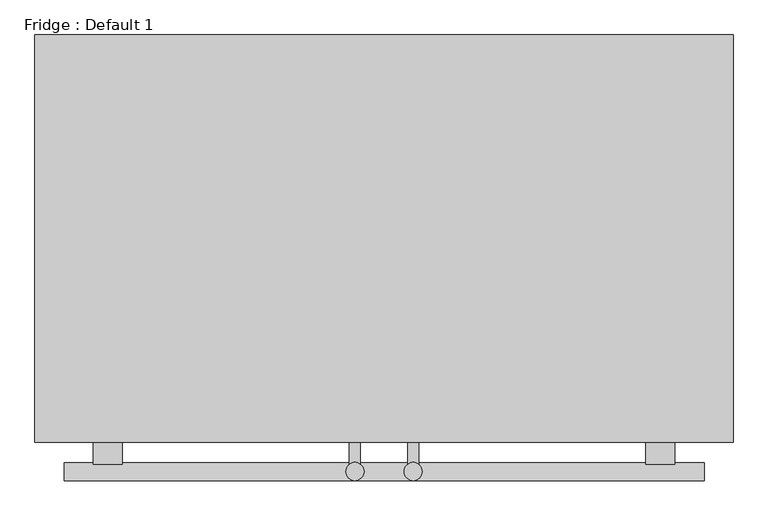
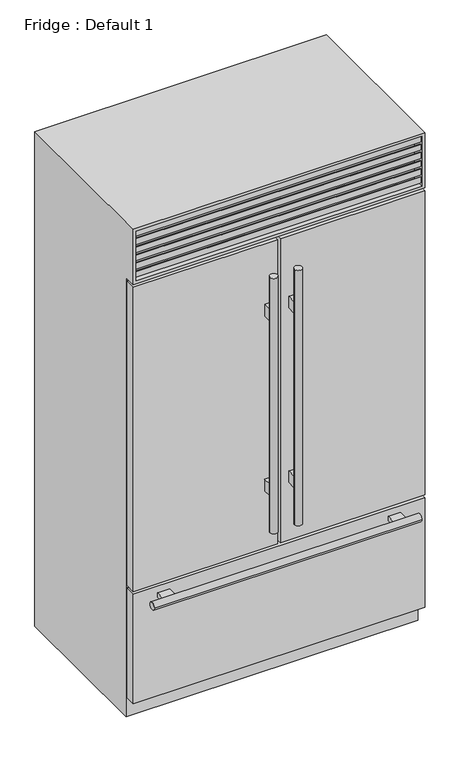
"""IFC4 building model written with IfcOpenShell, lengths in millimetres: proxy geometry, Fridge : Default 1."""

from ifc_helpers import new_model, si_unit, frame, origin, place, context, project, spatial, polyline, circle_curve, ellipse_curve, outline, extrude, faceted_brep, source, transform, mapped, element, save
from ifc_brep_helpers import plane_surface, cylinder_surface, advanced_brep


def fridge_default_1_30e53153(model_context):
    return source(origin(), model_context, "Body", "SolidModel", [
        extrude(outline(polyline([(-609.6, -766.75), (-6.35, -766.75), (-6.35, -811.2), (-609.6, -811.2), (-609.6, -766.75)])), frame((0.0, 0.0, 584.2), z_axis=(0.0, 0.0, 1.0), x_axis=(1.0, 0.0, 0.0)), (0.0, 0.0, 1.0), 1343.025),
        extrude(outline(polyline([(6.35, -766.75), (609.6, -766.75), (609.6, -811.2), (6.35, -811.2), (6.35, -766.75)])), frame((0.0, 0.0, 584.2), z_axis=(0.0, 0.0, 1.0), x_axis=(1.0, 0.0, 0.0)), (0.0, 0.0, 1.0), 1343.025),
        extrude(outline(polyline([(-609.6, -766.75), (609.6, -766.75), (609.6, -811.2), (-609.6, -811.2), (-609.6, -766.75)])), frame((0.0, 0.0, 88.9), z_axis=(0.0, 0.0, 1.0), x_axis=(1.0, 0.0, 0.0)), (0.0, 0.0, 1.0), 482.6),
        faceted_brep([(609.6, -811.2, 2184.4), (-609.6, -811.2, 2184.4), (-609.6, -811.2, 1939.925), (609.6, -811.2, 1939.925), (596.9, -811.2, 2171.7), (596.9, -811.2, 1952.625), (-596.9, -811.2, 1952.625), (-596.9, -811.2, 2171.7), (609.6, -100.0, 2184.4), (-609.6, -100.0, 2184.4), (-609.6, -100.0, 0.0), (-609.6, -760.4, 0.0), (-609.6, -760.4, 1939.925), (609.6, -760.4, 1939.925), (609.6, -760.4, 0.0), (609.6, -100.0, 0.0), (-596.9, -760.4, 2171.7), (596.9, -760.4, 2171.7), (-596.9, -760.4, 1952.625), (596.9, -760.4, 1952.625)], [[[0, 1, 2, 3], [4, 5, 6, 7]], [[1, 0, 8, 9]], [[2, 1, 9, 10, 11, 12]], [[3, 2, 12, 13]], [[8, 0, 3, 13, 14, 15]], [[4, 7, 16, 17]], [[7, 6, 18, 16]], [[6, 5, 19, 18]], [[5, 4, 17, 19]], [[15, 14, 11, 10]], [[9, 8, 15, 10]], [[17, 16, 18, 19]], [[11, 14, 13, 12]]]),
        extrude(outline(polyline([(-760.4, 1952.625), (-808.025, 1965.3860803), (-808.025, 1990.7860803), (-804.85, 1990.7860803), (-804.85, 1967.9368938), (-760.4, 1956.0265522), (-760.4, 1952.625)])), frame((-596.9, 0.0, 0.0), z_axis=(1.0, 0.0, 0.0), x_axis=(0.0, 1.0, 0.0)), (0.0, 0.0, 1.0), 1193.8),
        extrude(outline(polyline([(-760.4, 1988.8077839), (-808.025, 2001.5688642), (-808.025, 2026.9688642), (-804.85, 2026.9688642), (-804.85, 2004.1196777), (-760.4, 1992.2093361), (-760.4, 1988.8077839)])), frame((-596.9, 0.0, 0.0), z_axis=(1.0, 0.0, 0.0), x_axis=(0.0, 1.0, 0.0)), (0.0, 0.0, 1.0), 1193.8),
        extrude(outline(polyline([(-760.4, 2024.9905679), (-808.025, 2037.7516482), (-808.025, 2063.1516482), (-804.85, 2063.1516482), (-804.85, 2040.3024616), (-760.4, 2028.39212), (-760.4, 2024.9905679)])), frame((-596.9, 0.0, 0.0), z_axis=(1.0, 0.0, 0.0), x_axis=(0.0, 1.0, 0.0)), (0.0, 0.0, 1.0), 1193.8),
        extrude(outline(polyline([(-760.4, 2061.1733518), (-808.025, 2073.9344321), (-808.025, 2099.3344321), (-804.85, 2099.3344321), (-804.85, 2076.4852456), (-760.4, 2064.574904), (-760.4, 2061.1733518)])), frame((-596.9, 0.0, 0.0), z_axis=(1.0, 0.0, 0.0), x_axis=(0.0, 1.0, 0.0)), (0.0, 0.0, 1.0), 1193.8),
        extrude(outline(polyline([(-760.4, 2097.3561358), (-808.025, 2110.1172161), (-808.025, 2135.5172161), (-804.85, 2135.5172161), (-804.85, 2112.6680295), (-760.4, 2100.7576879), (-760.4, 2097.3561358)])), frame((-596.9, 0.0, 0.0), z_axis=(1.0, 0.0, 0.0), x_axis=(0.0, 1.0, 0.0)), (0.0, 0.0, 1.0), 1193.8),
        extrude(outline(polyline([(-760.4, 2133.5389197), (-808.025, 2146.3), (-808.025, 2171.7), (-804.85, 2171.7), (-804.85, 2148.8508135), (-760.4, 2136.9404719), (-760.4, 2133.5389197)])), frame((-596.9, 0.0, 0.0), z_axis=(1.0, 0.0, 0.0), x_axis=(0.0, 1.0, 0.0)), (0.0, 0.0, 1.0), 1193.8),
        advanced_brep(
        [(-603.25, -760.4, 565.15), (-603.25, -766.75, 565.15), (-603.25, -766.75, 95.25), (-603.25, -760.4, 95.25), (-606.425, -766.75, 568.325), (-606.425, -760.4, 568.325), (-606.425, -760.4, 92.075), (-606.425, -766.75, 92.075), (603.25, -766.75, 95.25), (603.25, -760.4, 95.25), (606.425, -760.4, 92.075), (606.425, -766.75, 92.075), (603.25, -766.75, 565.15), (603.25, -760.4, 565.15), (606.425, -760.4, 568.325), (606.425, -766.75, 568.325)],
        [
            (0, 1),
            (1, 2),
            (2, 3),
            (3, 0),
            (4, 5, ellipse_curve(frame((-606.425, -763.575, 568.325), z_axis=(-0.7071067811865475, 0.0, -0.7071067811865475), x_axis=(-0.7071067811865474, 0.0, 0.7071067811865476)), 4.4901281, 3.175)),
            (5, 6),
            (6, 7, ellipse_curve(frame((-606.425, -763.575, 92.075), z_axis=(-0.7071067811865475, 0.0, 0.7071067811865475), x_axis=(0.7071067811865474, 0.0, 0.7071067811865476)), 4.4901281, 3.175)),
            (7, 4),
            (2, 8),
            (8, 9),
            (9, 3),
            (6, 10),
            (10, 11, ellipse_curve(frame((606.425, -763.575, 92.075), z_axis=(-0.7071067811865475, 0.0, -0.7071067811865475), x_axis=(-0.7071067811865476, 0.0, 0.7071067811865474)), 4.4901281, 3.175)),
            (11, 7),
            (8, 12),
            (12, 13),
            (13, 9),
            (10, 14),
            (14, 15, ellipse_curve(frame((606.425, -763.575, 568.325), z_axis=(0.7071067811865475, 0.0, -0.7071067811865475), x_axis=(-0.7071067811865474, 0.0, -0.7071067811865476)), 4.4901281, 3.175)),
            (15, 11),
            (12, 1),
            (0, 13),
            (5, 14),
            (4, 15),
        ],
        [
            plane_surface(frame((-603.25, -766.75, 565.15), z_axis=(1.0, 0.0, 0.0), x_axis=(0.0, 0.0, -1.0))),
            cylinder_surface(frame((-606.425, -763.575, 571.5), z_axis=(0.0, 0.0, 1.0), x_axis=(0.0, -1.0, 0.0)), 3.175),
            plane_surface(frame((-603.25, -766.75, 95.25), z_axis=(0.0, 0.0, 1.0), x_axis=(1.0, 0.0, 0.0))),
            cylinder_surface(frame((-609.6, -763.575, 92.075), z_axis=(-1.0, 0.0, 0.0), x_axis=(0.0, -1.0, 0.0)), 3.175),
            plane_surface(frame((603.25, -766.75, 95.25), z_axis=(-1.0, 0.0, 0.0), x_axis=(0.0, 0.0, 1.0))),
            cylinder_surface(frame((606.425, -763.575, 88.9), z_axis=(0.0, 0.0, -1.0), x_axis=(0.0, -1.0, 0.0)), 3.175),
            plane_surface(frame((603.25, -766.75, 565.15), z_axis=(0.0, 0.0, -1.0), x_axis=(-1.0, 0.0, 0.0))),
            plane_surface(frame((603.25, -760.4, 565.15), z_axis=(0.0, 1.0, 0.0), x_axis=(-1.0, 0.0, 0.0))),
            cylinder_surface(frame((609.6, -763.575, 568.325), z_axis=(1.0, 0.0, 0.0), x_axis=(0.0, -1.0, 0.0)), 3.175),
            plane_surface(frame((606.425, -766.75, 568.325), z_axis=(0.0, -1.0, 0.0), x_axis=(-1.0, 0.0, 0.0))),
        ],
        [
            (0, [[1, 2, 3, 4]]),
            (1, [[5, 6, 7, 8]]),
            (2, [[-3, 9, 10, 11]]),
            (3, [[-7, 12, 13, 14]]),
            (4, [[-10, 15, 16, 17]]),
            (5, [[-13, 18, 19, 20]]),
            (6, [[-16, 21, -1, 22]]),
            (7, [[23, -18, -12, -6], [-11, -17, -22, -4]]),
            (8, [[-19, -23, -5, 24]]),
            (9, [[-14, -20, -24, -8], [-21, -15, -9, -2]]),
        ],
    ),
        advanced_brep(
        [(12.7, -760.4, 1920.875), (12.7, -766.75, 1920.875), (12.7, -766.75, 590.55), (12.7, -760.4, 590.55), (9.525, -766.75, 1924.05), (9.525, -760.4, 1924.05), (9.525, -760.4, 587.375), (9.525, -766.75, 587.375), (603.25, -766.75, 590.55), (603.25, -760.4, 590.55), (606.425, -760.4, 587.375), (606.425, -766.75, 587.375), (603.25, -766.75, 1920.875), (603.25, -760.4, 1920.875), (606.425, -760.4, 1924.05), (606.425, -766.75, 1924.05)],
        [
            (0, 1),
            (1, 2),
            (2, 3),
            (3, 0),
            (4, 5, ellipse_curve(frame((9.525, -763.575, 1924.05), z_axis=(-0.7071067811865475, 0.0, -0.7071067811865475), x_axis=(-0.7071067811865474, 0.0, 0.7071067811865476)), 4.4901281, 3.175)),
            (5, 6),
            (6, 7, ellipse_curve(frame((9.525, -763.575, 587.375), z_axis=(-0.7071067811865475, 0.0, 0.7071067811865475), x_axis=(0.7071067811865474, 0.0, 0.7071067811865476)), 4.4901281, 3.175)),
            (7, 4),
            (2, 8),
            (8, 9),
            (9, 3),
            (6, 10),
            (10, 11, ellipse_curve(frame((606.425, -763.575, 587.375), z_axis=(-0.7071067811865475, 0.0, -0.7071067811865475), x_axis=(-0.7071067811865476, 0.0, 0.7071067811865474)), 4.4901281, 3.175)),
            (11, 7),
            (8, 12),
            (12, 13),
            (13, 9),
            (10, 14),
            (14, 15, ellipse_curve(frame((606.425, -763.575, 1924.05), z_axis=(0.7071067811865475, 0.0, -0.7071067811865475), x_axis=(-0.7071067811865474, 0.0, -0.7071067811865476)), 4.4901281, 3.175)),
            (15, 11),
            (12, 1),
            (0, 13),
            (5, 14),
            (4, 15),
        ],
        [
            plane_surface(frame((12.7, -766.75, 1920.875), z_axis=(1.0, 0.0, 0.0), x_axis=(0.0, 0.0, -1.0))),
            cylinder_surface(frame((9.525, -763.575, 1927.225), z_axis=(0.0, 0.0, 1.0), x_axis=(0.0, -1.0, 0.0)), 3.175),
            plane_surface(frame((12.7, -766.75, 590.55), z_axis=(0.0, 0.0, 1.0), x_axis=(1.0, 0.0, 0.0))),
            cylinder_surface(frame((6.35, -763.575, 587.375), z_axis=(-1.0, 0.0, 0.0), x_axis=(0.0, -1.0, 0.0)), 3.175),
            plane_surface(frame((603.25, -766.75, 590.55), z_axis=(-1.0, 0.0, 0.0), x_axis=(0.0, 0.0, 1.0))),
            cylinder_surface(frame((606.425, -763.575, 584.2), z_axis=(0.0, 0.0, -1.0), x_axis=(0.0, -1.0, 0.0)), 3.175),
            plane_surface(frame((603.25, -766.75, 1920.875), z_axis=(0.0, 0.0, -1.0), x_axis=(-1.0, 0.0, 0.0))),
            plane_surface(frame((603.25, -760.4, 1920.875), z_axis=(0.0, 1.0, 0.0), x_axis=(-1.0, 0.0, 0.0))),
            cylinder_surface(frame((609.6, -763.575, 1924.05), z_axis=(1.0, 0.0, 0.0), x_axis=(0.0, -1.0, 0.0)), 3.175),
            plane_surface(frame((606.425, -766.75, 1924.05), z_axis=(0.0, -1.0, 0.0), x_axis=(-1.0, 0.0, 0.0))),
        ],
        [
            (0, [[1, 2, 3, 4]]),
            (1, [[5, 6, 7, 8]]),
            (2, [[-3, 9, 10, 11]]),
            (3, [[-7, 12, 13, 14]]),
            (4, [[-10, 15, 16, 17]]),
            (5, [[-13, 18, 19, 20]]),
            (6, [[-16, 21, -1, 22]]),
            (7, [[23, -18, -12, -6], [-11, -17, -22, -4]]),
            (8, [[-19, -23, -5, 24]]),
            (9, [[-14, -20, -24, -8], [-21, -15, -9, -2]]),
        ],
    ),
        advanced_brep(
        [(-603.25, -760.4, 1920.875), (-603.25, -766.75, 1920.875), (-603.25, -766.75, 590.55), (-603.25, -760.4, 590.55), (-606.425, -766.75, 1924.05), (-606.425, -760.4, 1924.05), (-606.425, -760.4, 587.375), (-606.425, -766.75, 587.375), (-12.7, -766.75, 590.55), (-12.7, -760.4, 590.55), (-9.525, -760.4, 587.375), (-9.525, -766.75, 587.375), (-12.7, -766.75, 1920.875), (-12.7, -760.4, 1920.875), (-9.525, -760.4, 1924.05), (-9.525, -766.75, 1924.05)],
        [
            (0, 1),
            (1, 2),
            (2, 3),
            (3, 0),
            (4, 5, ellipse_curve(frame((-606.425, -763.575, 1924.05), z_axis=(-0.7071067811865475, 0.0, -0.7071067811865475), x_axis=(-0.7071067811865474, 0.0, 0.7071067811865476)), 4.4901281, 3.175)),
            (5, 6),
            (6, 7, ellipse_curve(frame((-606.425, -763.575, 587.375), z_axis=(-0.7071067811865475, 0.0, 0.7071067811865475), x_axis=(0.7071067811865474, 0.0, 0.7071067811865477)), 4.4901281, 3.175)),
            (7, 4),
            (2, 8),
            (8, 9),
            (9, 3),
            (6, 10),
            (10, 11, ellipse_curve(frame((-9.525, -763.575, 587.375), z_axis=(-0.7071067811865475, 0.0, -0.7071067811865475), x_axis=(-0.7071067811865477, 0.0, 0.7071067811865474)), 4.4901281, 3.175)),
            (11, 7),
            (8, 12),
            (12, 13),
            (13, 9),
            (10, 14),
            (14, 15, ellipse_curve(frame((-9.525, -763.575, 1924.05), z_axis=(0.7071067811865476, 0.0, -0.7071067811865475), x_axis=(-0.7071067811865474, 0.0, -0.7071067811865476)), 4.4901281, 3.175)),
            (15, 11),
            (12, 1),
            (0, 13),
            (5, 14),
            (4, 15),
        ],
        [
            plane_surface(frame((-603.25, -766.75, 1920.875), z_axis=(1.0, 0.0, 0.0), x_axis=(0.0, 0.0, -1.0))),
            cylinder_surface(frame((-606.425, -763.575, 1927.225), z_axis=(0.0, 0.0, 1.0), x_axis=(0.0, -1.0, 0.0)), 3.175),
            plane_surface(frame((-603.25, -766.75, 590.55), z_axis=(0.0, 0.0, 1.0), x_axis=(1.0, 0.0, 0.0))),
            cylinder_surface(frame((-609.6, -763.575, 587.375), z_axis=(-1.0, 0.0, 0.0), x_axis=(0.0, -1.0, 0.0)), 3.175),
            plane_surface(frame((-12.7, -766.75, 590.55), z_axis=(-1.0, 0.0, 0.0), x_axis=(0.0, 0.0, 1.0))),
            cylinder_surface(frame((-9.525, -763.575, 584.2), z_axis=(0.0, 0.0, -1.0), x_axis=(0.0, -1.0, 0.0)), 3.175),
            plane_surface(frame((-12.7, -766.75, 1920.875), z_axis=(0.0, 0.0, -1.0), x_axis=(-1.0, 0.0, 0.0))),
            plane_surface(frame((-12.7, -760.4, 1920.875), z_axis=(0.0, 1.0, 0.0), x_axis=(-1.0, 0.0, 0.0))),
            cylinder_surface(frame((-6.35, -763.575, 1924.05), z_axis=(1.0, 0.0, 0.0), x_axis=(0.0, -1.0, 0.0)), 3.175),
            plane_surface(frame((-9.525, -766.75, 1924.05), z_axis=(0.0, -1.0, 0.0), x_axis=(-1.0, 0.0, 0.0))),
        ],
        [
            (0, [[1, 2, 3, 4]]),
            (1, [[5, 6, 7, 8]]),
            (2, [[-3, 9, 10, 11]]),
            (3, [[-7, 12, 13, 14]]),
            (4, [[-10, 15, 16, 17]]),
            (5, [[-13, 18, 19, 20]]),
            (6, [[-16, 21, -1, 22]]),
            (7, [[23, -18, -12, -6], [-11, -17, -22, -4]]),
            (8, [[-19, -23, -5, 24]]),
            (9, [[-14, -20, -24, -8], [-21, -15, -9, -2]]),
        ],
    ),
        advanced_brep(
        [(-457.2, -811.2, 542.925), (-457.2, -811.2, 523.875), (-508.0, -811.2, 523.875), (-508.0, -811.2, 542.925), (457.2, -811.2, 542.925), (508.0, -811.2, 542.925), (508.0, -811.2, 523.875), (457.2, -811.2, 523.875), (-457.2, -849.6741958, 542.925), (-457.2, -846.4991958, 533.4), (-457.2, -849.6741958, 523.875), (-508.0, -849.6741958, 523.875), (-508.0, -846.4991958, 533.4), (-508.0, -849.6741958, 542.925), (457.2, -849.6741958, 542.925), (508.0, -849.6741958, 542.925), (508.0, -846.4991958, 533.4), (508.0, -849.6741958, 523.875), (457.2, -849.6741958, 523.875), (457.2, -846.4991958, 533.4), (558.8, -878.2491958, 533.4), (558.8, -846.4991958, 533.4), (-558.8, -878.2491958, 533.4), (-558.8, -846.4991958, 533.4)],
        [
            (0, 1),
            (1, 2),
            (2, 3),
            (3, 0),
            (4, 5),
            (5, 6),
            (6, 7),
            (7, 4),
            (0, 8),
            (8, 9, circle_curve(frame((-457.2, -862.3741958, 533.4), z_axis=(-1.0, 0.0, 0.0), x_axis=(0.0, 1.0, 0.0)), 15.875)),
            (9, 10, circle_curve(frame((-457.2, -862.3741958, 533.4), z_axis=(-1.0, 0.0, 0.0), x_axis=(0.0, 1.0, 0.0)), 15.875)),
            (10, 1),
            (10, 11),
            (11, 2),
            (11, 12, circle_curve(frame((-508.0, -862.3741958, 533.4), z_axis=(1.0, 0.0, 0.0), x_axis=(0.0, 1.0, 0.0)), 15.875)),
            (12, 13, circle_curve(frame((-508.0, -862.3741958, 533.4), z_axis=(1.0, 0.0, 0.0), x_axis=(0.0, 1.0, 0.0)), 15.875)),
            (13, 3),
            (13, 8),
            (4, 14),
            (14, 15),
            (15, 5),
            (15, 16, circle_curve(frame((508.0, -862.3741958, 533.4), z_axis=(-1.0, 0.0, 0.0), x_axis=(0.0, 1.0, 0.0)), 15.875)),
            (16, 17, circle_curve(frame((508.0, -862.3741958, 533.4), z_axis=(-1.0, 0.0, 0.0), x_axis=(0.0, 1.0, 0.0)), 15.875)),
            (17, 6),
            (17, 18),
            (18, 7),
            (18, 19, circle_curve(frame((457.2, -862.3741958, 533.4), z_axis=(1.0, 0.0, 0.0), x_axis=(0.0, 1.0, 0.0)), 15.875)),
            (19, 14, circle_curve(frame((457.2, -862.3741958, 533.4), z_axis=(1.0, 0.0, 0.0), x_axis=(0.0, 1.0, 0.0)), 15.875)),
            (20, 21, circle_curve(frame((558.8, -862.3741958, 533.4), z_axis=(1.0, 0.0, 0.0), x_axis=(0.0, 1.0, 0.0)), 15.875)),
            (21, 20, circle_curve(frame((558.8, -862.3741958, 533.4), z_axis=(1.0, 0.0, 0.0), x_axis=(0.0, 1.0, 0.0)), 15.875)),
            (22, 23, circle_curve(frame((-558.8, -862.3741958, 533.4), z_axis=(-1.0, 0.0, 0.0), x_axis=(0.0, 1.0, 0.0)), 15.875)),
            (23, 22, circle_curve(frame((-558.8, -862.3741958, 533.4), z_axis=(-1.0, 0.0, 0.0), x_axis=(0.0, 1.0, 0.0)), 15.875)),
            (20, 22),
            (23, 12),
            (9, 19),
            (16, 21),
        ],
        [
            plane_surface(frame((-457.2, -811.2, 542.925), z_axis=(0.0, 1.0, 0.0), x_axis=(0.0, 0.0, -1.0))),
            plane_surface(frame((-457.2, -811.2, 542.925), z_axis=(1.0, 0.0, 0.0), x_axis=(0.0, -1.0, 0.0))),
            plane_surface(frame((-457.2, -811.2, 523.875), z_axis=(0.0, 0.0, -1.0), x_axis=(0.0, -1.0, 0.0))),
            plane_surface(frame((-508.0, -811.2, 523.875), z_axis=(-1.0, 0.0, 0.0), x_axis=(0.0, -1.0, 0.0))),
            plane_surface(frame((-508.0, -811.2, 542.925), z_axis=(0.0, 0.0, 1.0), x_axis=(0.0, -1.0, 0.0))),
            plane_surface(frame((457.2, -811.2, 542.925), z_axis=(0.0, 0.0, 1.0), x_axis=(0.0, -1.0, 0.0))),
            plane_surface(frame((508.0, -811.2, 542.925), z_axis=(1.0, 0.0, 0.0), x_axis=(0.0, -1.0, 0.0))),
            plane_surface(frame((508.0, -811.2, 523.875), z_axis=(0.0, 0.0, -1.0), x_axis=(0.0, -1.0, 0.0))),
            plane_surface(frame((457.2, -811.2, 523.875), z_axis=(-1.0, 0.0, 0.0), x_axis=(0.0, -1.0, 0.0))),
            plane_surface(frame((558.8, -846.4991958, 533.4), z_axis=(1.0, 0.0, 0.0), x_axis=(0.0, 0.0, 1.0))),
            plane_surface(frame((-558.8, -846.4991958, 533.4), z_axis=(-1.0, 0.0, 0.0), x_axis=(0.0, 0.0, -1.0))),
            cylinder_surface(frame((-558.8, -862.3741958, 533.4), z_axis=(1.0, 0.0, 0.0), x_axis=(0.0, 1.0, 0.0)), 15.875),
        ],
        [
            (0, [[1, 2, 3, 4]]),
            (0, [[5, 6, 7, 8]]),
            (1, [[-1, 9, 10, 11, 12]]),
            (2, [[-2, -12, 13, 14]]),
            (3, [[-3, -14, 15, 16, 17]]),
            (4, [[-4, -17, 18, -9]]),
            (5, [[-5, 19, 20, 21]]),
            (6, [[-6, -21, 22, 23, 24]]),
            (7, [[-7, -24, 25, 26]]),
            (8, [[-8, -26, 27, 28, -19]]),
            (9, [[29, 30]]),
            (10, [[31, 32]]),
            (11, [[-29, 33, -32, 34, -15, -13, -11, 35, -27, -25, -23, 36]]),
            (11, [[-30, -36, -22, -20, -28, -35, -10, -18, -16, -34, -31, -33]]),
        ],
    ),
        advanced_brep(
        [(34.925, -862.3741958, 1812.925), (66.675, -862.3741958, 1812.925), (34.925, -862.3741958, 685.8), (66.675, -862.3741958, 685.8), (60.325, -849.6741958, 1609.725), (60.325, -849.6741958, 1660.525), (41.275, -849.6741958, 1660.525), (41.275, -849.6741958, 1609.725), (60.325, -849.6741958, 838.2), (60.325, -849.6741958, 889.0), (41.275, -849.6741958, 889.0), (41.275, -849.6741958, 838.2), (60.325, -811.2, 1660.525), (60.325, -811.2, 1609.725), (41.275, -811.2, 1609.725), (41.275, -811.2, 1660.525), (60.325, -811.2, 889.0), (60.325, -811.2, 838.2), (41.275, -811.2, 838.2), (41.275, -811.2, 889.0)],
        [
            (0, 1, circle_curve(frame((50.8, -862.3741958, 1812.925), z_axis=(0.0, 0.0, 1.0), x_axis=(1.0, 0.0, 0.0)), 15.875)),
            (1, 0, circle_curve(frame((50.8, -862.3741958, 1812.925), z_axis=(0.0, 0.0, 1.0), x_axis=(1.0, 0.0, 0.0)), 15.875)),
            (2, 3, circle_curve(frame((50.8, -862.3741958, 685.8), z_axis=(0.0, 0.0, -1.0), x_axis=(1.0, 0.0, 0.0)), 15.875)),
            (3, 2, circle_curve(frame((50.8, -862.3741958, 685.8), z_axis=(0.0, 0.0, -1.0), x_axis=(1.0, 0.0, 0.0)), 15.875)),
            (0, 2),
            (3, 1),
            (4, 5),
            (5, 6, circle_curve(frame((50.8, -862.3741958, 1660.525), z_axis=(0.0, 0.0, 1.0), x_axis=(1.0, 0.0, 0.0)), 15.875)),
            (6, 7),
            (7, 4, circle_curve(frame((50.8, -862.3741958, 1609.725), z_axis=(0.0, 0.0, -1.0), x_axis=(1.0, 0.0, 0.0)), 15.875)),
            (8, 9),
            (9, 10, circle_curve(frame((50.8, -862.3741958, 889.0), z_axis=(0.0, 0.0, 1.0), x_axis=(1.0, 0.0, 0.0)), 15.875)),
            (10, 11),
            (11, 8, circle_curve(frame((50.8, -862.3741958, 838.2), z_axis=(0.0, 0.0, -1.0), x_axis=(1.0, 0.0, 0.0)), 15.875)),
            (12, 13),
            (13, 14),
            (14, 15),
            (15, 12),
            (16, 17),
            (17, 18),
            (18, 19),
            (19, 16),
            (12, 5),
            (4, 13),
            (7, 14),
            (6, 15),
            (16, 9),
            (8, 17),
            (11, 18),
            (10, 19),
        ],
        [
            plane_surface(frame((66.675, -862.3741958, 1812.925), z_axis=(0.0, 0.0, 1.0), x_axis=(0.0, 1.0, 0.0))),
            plane_surface(frame((66.675, -862.3741958, 685.8), z_axis=(0.0, 0.0, -1.0), x_axis=(0.0, -1.0, 0.0))),
            cylinder_surface(frame((50.8, -862.3741958, 685.8), z_axis=(0.0, 0.0, 1.0), x_axis=(1.0, 0.0, 0.0)), 15.875),
            plane_surface(frame((60.325, -811.2, 1660.525), z_axis=(0.0, 1.0, 0.0), x_axis=(0.0, 0.0, -1.0))),
            plane_surface(frame((60.325, -811.2, 1660.525), z_axis=(1.0, 0.0, 0.0), x_axis=(0.0, -1.0, 0.0))),
            plane_surface(frame((60.325, -811.2, 1609.725), z_axis=(0.0, 0.0, -1.0), x_axis=(0.0, -1.0, 0.0))),
            plane_surface(frame((41.275, -811.2, 1609.725), z_axis=(-1.0, 0.0, 0.0), x_axis=(0.0, -1.0, 0.0))),
            plane_surface(frame((41.275, -811.2, 1660.525), z_axis=(0.0, 0.0, 1.0), x_axis=(0.0, -1.0, 0.0))),
            plane_surface(frame((60.325, -811.2, 889.0), z_axis=(1.0, 0.0, 0.0), x_axis=(0.0, -1.0, 0.0))),
            plane_surface(frame((60.325, -811.2, 838.2), z_axis=(0.0, 0.0, -1.0), x_axis=(0.0, -1.0, 0.0))),
            plane_surface(frame((41.275, -811.2, 838.2), z_axis=(-1.0, 0.0, 0.0), x_axis=(0.0, -1.0, 0.0))),
            plane_surface(frame((41.275, -811.2, 889.0), z_axis=(0.0, 0.0, 1.0), x_axis=(0.0, -1.0, 0.0))),
        ],
        [
            (0, [[1, 2]]),
            (1, [[3, 4]]),
            (2, [[-1, 5, -4, 6]]),
            (2, [[-2, -6, -3, -5], [7, 8, 9, 10], [11, 12, 13, 14]]),
            (3, [[15, 16, 17, 18]]),
            (3, [[19, 20, 21, 22]]),
            (4, [[-15, 23, -7, 24]]),
            (5, [[-16, -24, -10, 25]]),
            (6, [[-17, -25, -9, 26]]),
            (7, [[-18, -26, -8, -23]]),
            (8, [[-19, 27, -11, 28]]),
            (9, [[-20, -28, -14, 29]]),
            (10, [[-21, -29, -13, 30]]),
            (11, [[-22, -30, -12, -27]]),
        ],
    ),
        advanced_brep(
        [(-41.275, -811.2, 1660.525), (-41.275, -811.2, 1609.725), (-60.325, -811.2, 1609.725), (-60.325, -811.2, 1660.525), (-41.275, -811.2, 889.0), (-41.275, -811.2, 838.2), (-60.325, -811.2, 838.2), (-60.325, -811.2, 889.0), (-41.275, -849.6741958, 1660.525), (-41.275, -849.6741958, 1609.725), (-60.325, -849.6741958, 1609.725), (-60.325, -849.6741958, 1660.525), (-41.275, -849.6741958, 889.0), (-41.275, -849.6741958, 838.2), (-60.325, -849.6741958, 838.2), (-60.325, -849.6741958, 889.0), (-66.675, -862.3741958, 1812.925), (-34.925, -862.3741958, 1812.925), (-66.675, -862.3741958, 685.8), (-34.925, -862.3741958, 685.8)],
        [
            (0, 1),
            (1, 2),
            (2, 3),
            (3, 0),
            (4, 5),
            (5, 6),
            (6, 7),
            (7, 4),
            (0, 8),
            (8, 9),
            (9, 1),
            (9, 10, circle_curve(frame((-50.8, -862.3741958, 1609.725), z_axis=(0.0, 0.0, 1.0), x_axis=(1.0, 0.0, 0.0)), 15.875)),
            (10, 2),
            (10, 11),
            (11, 3),
            (11, 8, circle_curve(frame((-50.8, -862.3741958, 1660.525), z_axis=(0.0, 0.0, -1.0), x_axis=(1.0, 0.0, 0.0)), 15.875)),
            (4, 12),
            (12, 13),
            (13, 5),
            (13, 14, circle_curve(frame((-50.8, -862.3741958, 838.2), z_axis=(0.0, 0.0, 1.0), x_axis=(1.0, 0.0, 0.0)), 15.875)),
            (14, 6),
            (14, 15),
            (15, 7),
            (15, 12, circle_curve(frame((-50.8, -862.3741958, 889.0), z_axis=(0.0, 0.0, -1.0), x_axis=(1.0, 0.0, 0.0)), 15.875)),
            (16, 17, circle_curve(frame((-50.8, -862.3741958, 1812.925), z_axis=(0.0, 0.0, 1.0), x_axis=(1.0, 0.0, 0.0)), 15.875)),
            (17, 16, circle_curve(frame((-50.8, -862.3741958, 1812.925), z_axis=(0.0, 0.0, 1.0), x_axis=(1.0, 0.0, 0.0)), 15.875)),
            (18, 19, circle_curve(frame((-50.8, -862.3741958, 685.8), z_axis=(0.0, 0.0, -1.0), x_axis=(1.0, 0.0, 0.0)), 15.875)),
            (19, 18, circle_curve(frame((-50.8, -862.3741958, 685.8), z_axis=(0.0, 0.0, -1.0), x_axis=(1.0, 0.0, 0.0)), 15.875)),
            (16, 18),
            (19, 17),
        ],
        [
            plane_surface(frame((-41.275, -811.2, 1660.525), z_axis=(0.0, 1.0, 0.0), x_axis=(0.0, 0.0, -1.0))),
            plane_surface(frame((-41.275, -811.2, 1660.525), z_axis=(1.0, 0.0, 0.0), x_axis=(0.0, -1.0, 0.0))),
            plane_surface(frame((-41.275, -811.2, 1609.725), z_axis=(0.0, 0.0, -1.0), x_axis=(0.0, -1.0, 0.0))),
            plane_surface(frame((-60.325, -811.2, 1609.725), z_axis=(-1.0, 0.0, 0.0), x_axis=(0.0, -1.0, 0.0))),
            plane_surface(frame((-60.325, -811.2, 1660.525), z_axis=(0.0, 0.0, 1.0), x_axis=(0.0, -1.0, 0.0))),
            plane_surface(frame((-41.275, -811.2, 889.0), z_axis=(1.0, 0.0, 0.0), x_axis=(0.0, -1.0, 0.0))),
            plane_surface(frame((-41.275, -811.2, 838.2), z_axis=(0.0, 0.0, -1.0), x_axis=(0.0, -1.0, 0.0))),
            plane_surface(frame((-60.325, -811.2, 838.2), z_axis=(-1.0, 0.0, 0.0), x_axis=(0.0, -1.0, 0.0))),
            plane_surface(frame((-60.325, -811.2, 889.0), z_axis=(0.0, 0.0, 1.0), x_axis=(0.0, -1.0, 0.0))),
            plane_surface(frame((-34.925, -862.3741958, 1812.925), z_axis=(0.0, 0.0, 1.0), x_axis=(0.0, 1.0, 0.0))),
            plane_surface(frame((-34.925, -862.3741958, 685.8), z_axis=(0.0, 0.0, -1.0), x_axis=(0.0, -1.0, 0.0))),
            cylinder_surface(frame((-50.8, -862.3741958, 685.8), z_axis=(0.0, 0.0, 1.0), x_axis=(1.0, 0.0, 0.0)), 15.875),
        ],
        [
            (0, [[1, 2, 3, 4]]),
            (0, [[5, 6, 7, 8]]),
            (1, [[-1, 9, 10, 11]]),
            (2, [[-2, -11, 12, 13]]),
            (3, [[-3, -13, 14, 15]]),
            (4, [[-4, -15, 16, -9]]),
            (5, [[-5, 17, 18, 19]]),
            (6, [[-6, -19, 20, 21]]),
            (7, [[-7, -21, 22, 23]]),
            (8, [[-8, -23, 24, -17]]),
            (9, [[25, 26]]),
            (10, [[27, 28]]),
            (11, [[-25, 29, -28, 30]]),
            (11, [[-26, -30, -27, -29], [-10, -16, -14, -12], [-18, -24, -22, -20]]),
        ],
    ),
    ])


if __name__ == "__main__":
    model = new_model("IFC4")
    model_context = context("Model", 3, world=origin())
    ifc_project = project(units=[si_unit("LENGTHUNIT", "METRE", prefix="MILLI")], contexts=[model_context])
    site = spatial("IfcSite", under=ifc_project)
    building = spatial("IfcBuilding", under=site)
    placement = place(None, origin())
    fridge_default_1_shape = fridge_default_1_30e53153(model_context)
    element("IfcBuildingElementProxy", 1, Name="Fridge : Default 1", ObjectType="Fridge : Default 1", at=placement, inside=building, context=model_context, shape_type="MappedRepresentation", body=[
        mapped(fridge_default_1_shape, transform((0.0, 0.0, 0.0), x_axis=(1.0, 0.0, 0.0), y_axis=(0.0, 1.0, 0.0), z_axis=(0.0, 0.0, 1.0))),
    ])
    save(model, "model.ifc")
